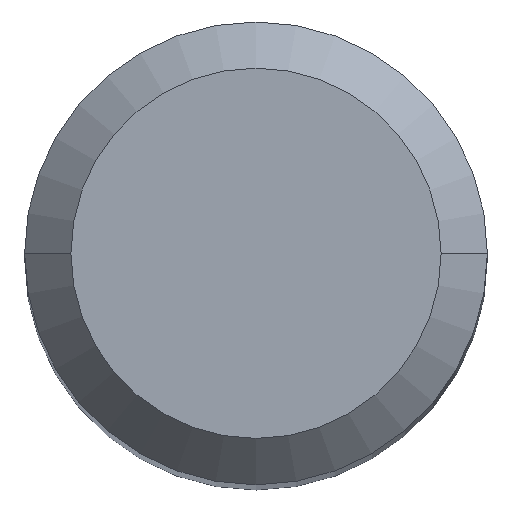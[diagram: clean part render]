
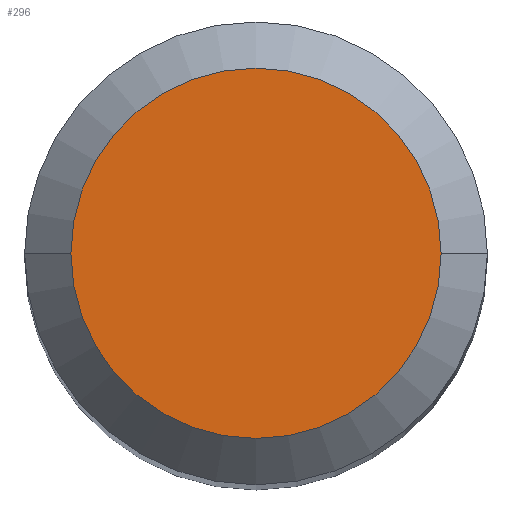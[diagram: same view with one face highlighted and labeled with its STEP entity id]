
A CAD part, top view. The second image highlights one B-rep face of the part: STEP entity #296.
In plain terms, the highlighted planar face has unit normal (0, 0, 1).
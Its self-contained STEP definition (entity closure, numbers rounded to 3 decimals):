
#4 = EDGE_CURVE ( 'NONE', #521, #452, #589, .T. ) ;
#12 = AXIS2_PLACEMENT_3D ( 'NONE', #33, #492, #227 ) ;
#33 = CARTESIAN_POINT ( 'NONE',  ( 0., 0., 0. ) ) ;
#57 = DIRECTION ( 'NONE',  ( 0., 0., -1. ) ) ;
#189 = ORIENTED_EDGE ( 'NONE', *, *, #513, .F. ) ;
#227 = DIRECTION ( 'NONE',  ( -1., 0., 0. ) ) ;
#234 = PLANE ( 'NONE',  #336 ) ;
#287 = CIRCLE ( 'NONE', #12, 2.4 ) ;
#288 = CARTESIAN_POINT ( 'NONE',  ( 2.4, 0., 0. ) ) ;
#296 = ADVANCED_FACE ( 'NONE', ( #447 ), #234, .T. ) ;
#336 = AXIS2_PLACEMENT_3D ( 'NONE', #591, #337, #620 ) ;
#337 = DIRECTION ( 'NONE',  ( 0., 0., 1. ) ) ;
#388 = AXIS2_PLACEMENT_3D ( 'NONE', #564, #57, #409 ) ;
#409 = DIRECTION ( 'NONE',  ( -1., 0., 0. ) ) ;
#430 = CARTESIAN_POINT ( 'NONE',  ( -2.4, 0., 0. ) ) ;
#444 = ORIENTED_EDGE ( 'NONE', *, *, #4, .F. ) ;
#447 = FACE_OUTER_BOUND ( 'NONE', #539, .T. ) ;
#452 = VERTEX_POINT ( 'NONE', #288 ) ;
#492 = DIRECTION ( 'NONE',  ( 0., 0., -1. ) ) ;
#513 = EDGE_CURVE ( 'NONE', #452, #521, #287, .T. ) ;
#521 = VERTEX_POINT ( 'NONE', #430 ) ;
#539 = EDGE_LOOP ( 'NONE', ( #444, #189 ) ) ;
#564 = CARTESIAN_POINT ( 'NONE',  ( 0., 0., 0. ) ) ;
#589 = CIRCLE ( 'NONE', #388, 2.4 ) ;
#591 = CARTESIAN_POINT ( 'NONE',  ( 0., 2.4, 0. ) ) ;
#620 = DIRECTION ( 'NONE',  ( 1., 0., 0. ) ) ;
